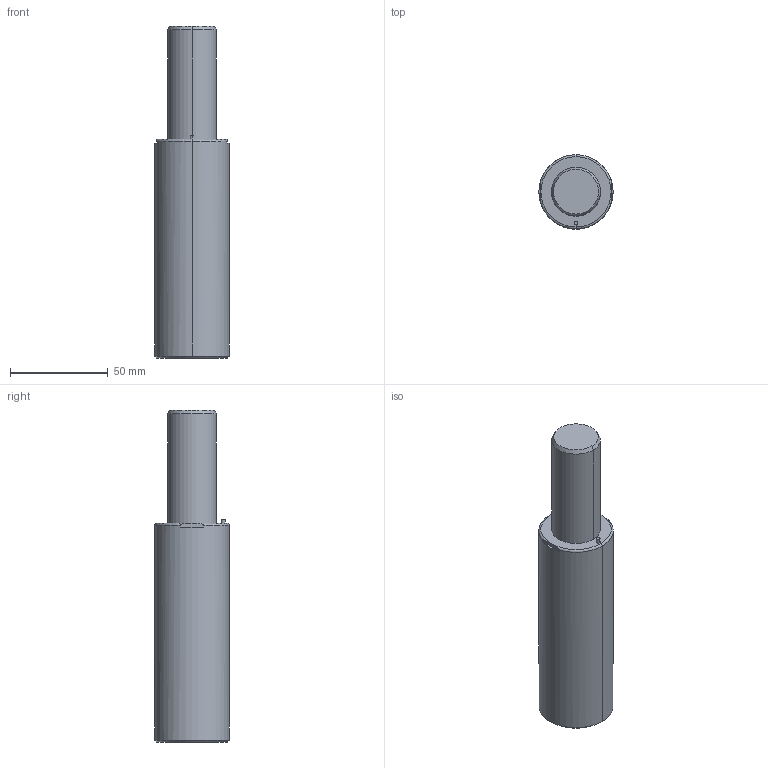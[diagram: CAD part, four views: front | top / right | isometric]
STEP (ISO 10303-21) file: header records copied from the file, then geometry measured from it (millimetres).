
FILE_DESCRIPTION(/* description */ (''),/* implementation_level */ '2;1');
FILE_NAME(/* name */ '3d_gsx38-56_03985_r00.stp',/* time_stamp */ '2011-01-10T14:15:13+09:00',/* author */ ('MISUMI'),/* organization */ (''),/* preprocessor_version */ 'ST-DEVELOPER v11',/* originating_system */ 'UGS - NX 5.0',/* authorisation */ '');
FILE_SCHEMA (('CONFIG_CONTROL_DESIGN'));
Length unit declared in the file: millimetre
Products named in the file (1): 3d_gsx38-56_03985_r00
Bounding box: 38 x 38 x 170 mm (x, y, z)
Volume: 153428.5 mm3; surface area: 21314.9 mm2
Topology: 1 solids, 1 shells, 59 faces, 128 edges, 76 vertices
Faces by surface type: cylinder 28, plane 15, cone 12, torus 4
Entity records: 1718 total; most frequent: CARTESIAN_POINT 328, DIRECTION 306, ORIENTED_EDGE 240, AXIS2_PLACEMENT_3D 130, EDGE_CURVE 120, VERTEX_POINT 76, EDGE_LOOP 72, CIRCLE 70
